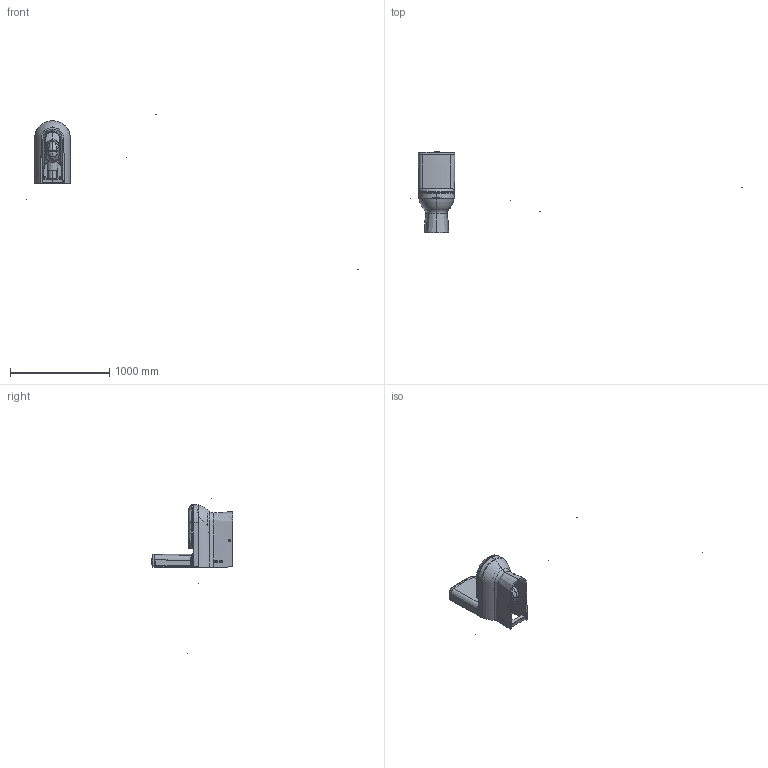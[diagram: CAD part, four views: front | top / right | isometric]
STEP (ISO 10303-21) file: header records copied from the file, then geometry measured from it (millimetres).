
FILE_DESCRIPTION (( 'STEP AP203' ), '1' );
FILE_NAME ('LT361+NV410+KC2203.01.0000.STEP', '2022-04-11T14:59:51', ( '' ), ( '' ), 'SwSTEP 2.0', 'SolidWorks 2021', '' );
FILE_SCHEMA (( 'CONFIG_CONTROL_DESIGN' ));
Products named in the file (1): LT361+NV410+KC2203.01.0000
Bounding box: 3342.89 x 820.18 x 1567.2 mm (x, y, z)
Volume: 29024521.5 mm3; surface area: 3311215.4 mm2
Topology: 64 solids, 65 shells, 3473 faces, 8752 edges, 5387 vertices
Faces by surface type: cylinder 1519, bspline 861, plane 618, torus 270, sphere 126, cone 79
Entity records: 631703 total; most frequent: CARTESIAN_POINT 559399, ORIENTED_EDGE 17248, DIRECTION 12307, EDGE_CURVE 8624, VERTEX_POINT 5381, AXIS2_PLACEMENT_3D 4765, EDGE_LOOP 3625, FACE_OUTER_BOUND 3473
